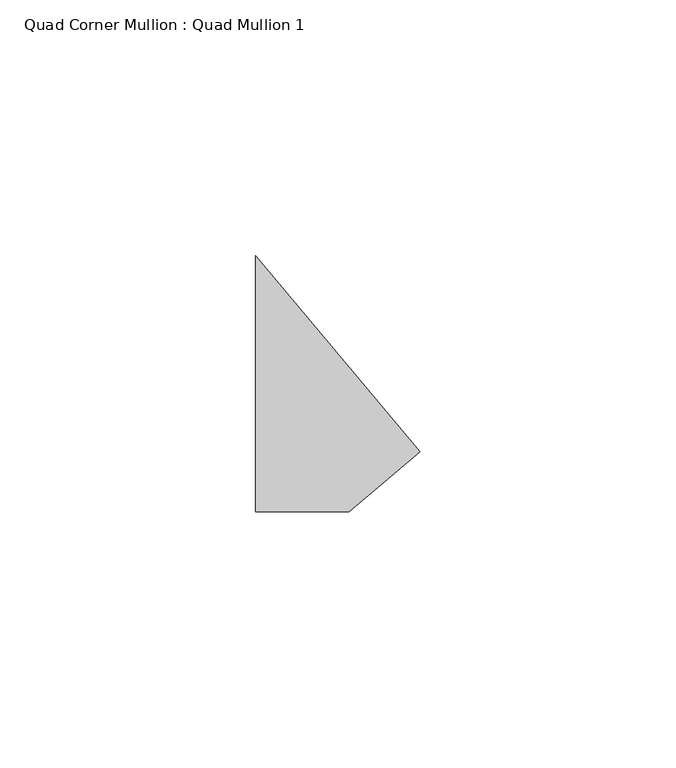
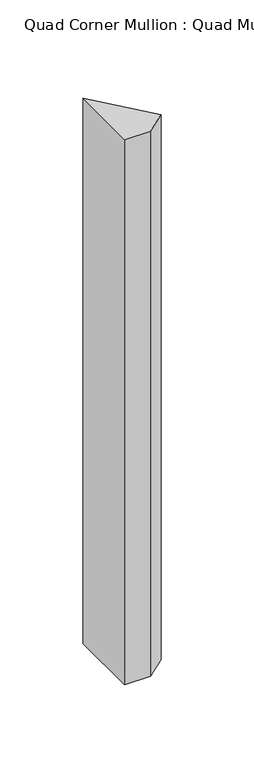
"""IFC4 building model written with IfcOpenShell, lengths in millimetres: member geometry, Quad Corner Mullion : Quad Mullion 1."""

from ifc_helpers import new_model, si_unit, frame, origin, place, context, project, spatial, polyline, outline, extrude, source, transform, mapped, element, save


def quad_corner_mullion_quad_mullion_1_f7d5b05a(model_context):
    return source(origin(), model_context, "Body", "SweptSolid", [
        extrude(outline(polyline([(23.0401246, -13.3022222), (9.0992559, -25.0), (-9.0992559, -25.0), (-9.0992559, 25.0), (23.0401246, -13.3022222)])), frame((0.0, 0.0, -400.0), z_axis=(0.0, 0.0, 1.0), x_axis=(1.0, 0.0, 0.0)), (0.0, 0.0, 1.0), 400.0),
    ])


if __name__ == "__main__":
    model = new_model("IFC4")
    model_context = context("Model", 3, world=origin())
    ifc_project = project(units=[si_unit("LENGTHUNIT", "METRE", prefix="MILLI")], contexts=[model_context])
    site = spatial("IfcSite", under=ifc_project)
    building = spatial("IfcBuilding", under=site)
    placement = place(None, origin())
    quad_corner_mullion_quad_mullion_1_shape = quad_corner_mullion_quad_mullion_1_f7d5b05a(model_context)
    element("IfcMember", 1, ObjectType="Quad Corner Mullion : Quad Mullion 1", at=placement, inside=building, context=model_context, shape_type="MappedRepresentation", body=[
        mapped(quad_corner_mullion_quad_mullion_1_shape, transform((0.0, 0.0, 0.0), x_axis=(1.0, 0.0, 0.0), y_axis=(0.0, 1.0, 0.0), z_axis=(0.0, 0.0, 1.0))),
    ])
    save(model, "model.ifc")
